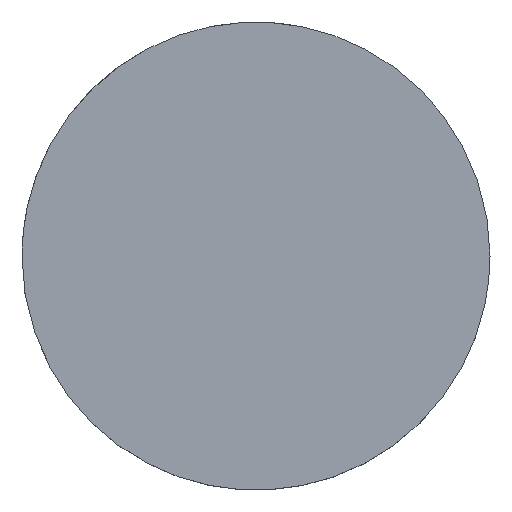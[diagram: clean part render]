
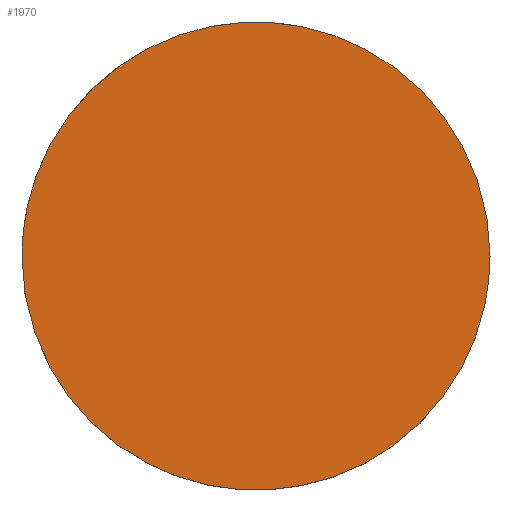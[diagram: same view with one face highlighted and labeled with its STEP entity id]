
A CAD part, top view. The second image highlights one B-rep face of the part: STEP entity #1970.
In plain terms, the highlighted planar face has unit normal (0, 0, 1).
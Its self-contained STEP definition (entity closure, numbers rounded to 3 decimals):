
#190 = CARTESIAN_POINT ('', (-7.5, 0., -9.025));
#200 = VERTEX_POINT ('', #190);
#260 = CARTESIAN_POINT ('', (7.5, 0., -9.025));
#270 = VERTEX_POINT ('', #260);
#280 = CARTESIAN_POINT ('', (7.5, 0., -9.025));
#290 = CARTESIAN_POINT ('', (7.5, 7.5, -9.025));
#300 = CARTESIAN_POINT ('', (0., 7.5, -9.025));
#310 = CARTESIAN_POINT ('', (-7.5, 7.5, -9.025));
#320 = CARTESIAN_POINT ('', (-7.5, 0., -9.025));
#330 = (
   BOUNDED_CURVE ()
   B_SPLINE_CURVE (2, (#280, #290, #300, #310, #320), .UNSPECIFIED., .F., .U.)
   B_SPLINE_CURVE_WITH_KNOTS ((3, 2, 3), (0., 1.571, 3.142), .UNSPECIFIED.)
   CURVE ()
   GEOMETRIC_REPRESENTATION_ITEM ()
   RATIONAL_B_SPLINE_CURVE ((1., 0.707, 1., 0.707, 1.))
   REPRESENTATION_ITEM ('')
);
#340 = EDGE_CURVE ('', #270, #200, #330, .T.);
#580 = CARTESIAN_POINT ('', (-7.5, 0., -9.025));
#590 = CARTESIAN_POINT ('', (-7.5, -7.5, -9.025));
#600 = CARTESIAN_POINT ('', (0., -7.5, -9.025));
#610 = CARTESIAN_POINT ('', (7.5, -7.5, -9.025));
#620 = CARTESIAN_POINT ('', (7.5, 0., -9.025));
#630 = (
   BOUNDED_CURVE ()
   B_SPLINE_CURVE (2, (#580, #590, #600, #610, #620), .UNSPECIFIED., .F., .U.)
   B_SPLINE_CURVE_WITH_KNOTS ((3, 2, 3), (3.142, 4.712, 6.283), .UNSPECIFIED.)
   CURVE ()
   GEOMETRIC_REPRESENTATION_ITEM ()
   RATIONAL_B_SPLINE_CURVE ((1., 0.707, 1., 0.707, 1.))
   REPRESENTATION_ITEM ('')
);
#640 = EDGE_CURVE ('', #200, #270, #630, .T.);
#1880 = ORIENTED_EDGE ('', *, *, #340, .T.);
#1890 = ORIENTED_EDGE ('', *, *, #640, .T.);
#1900 = EDGE_LOOP ('', (#1880, #1890));
#1910 = FACE_OUTER_BOUND ('', #1900, .T.);
#1920 = CARTESIAN_POINT ('', (0., 15.504, -9.025));
#1930 = DIRECTION ('', (0., 0., 1.));
#1940 = DIRECTION ('', (-0.707, -0.707, 0.));
#1950 = AXIS2_PLACEMENT_3D ('', #1920, #1930, #1940);
#1960 = PLANE ('', #1950);
#1970 = ADVANCED_FACE ('', (#1910), #1960, .T.);
